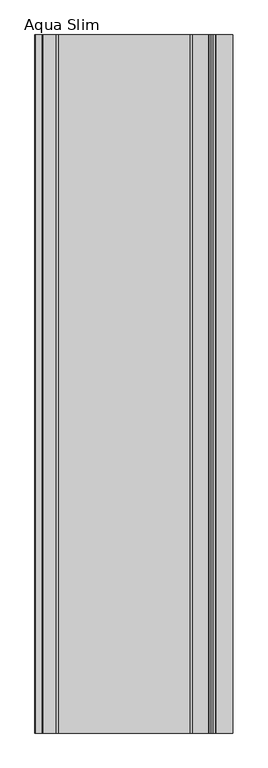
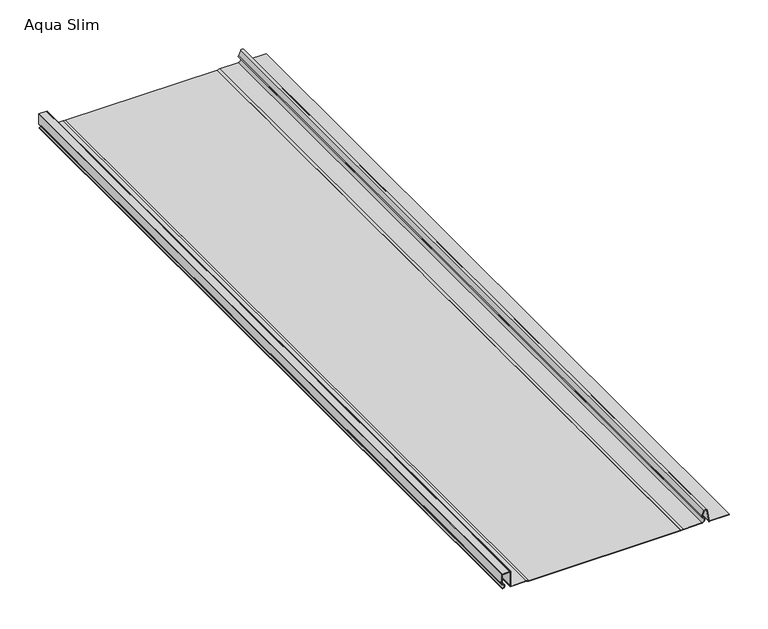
"""IFC4 building model written with IfcOpenShell, lengths in millimetres: proxy geometry, AQUAPLAST - Panel Dachowy i Elewacyjny Aqua Slim : Aqua Slim."""

from ifc_helpers import new_model, si_unit, point, frame, frame_2d, origin, place, context, project, spatial, polyline, circle_curve, trimmed, segment, composite_curve, outline, extrude, source, transform, mapped, element, save


def aqua_slim_ea71b765(model_context):
    return source(origin(), model_context, "Body", "SweptSolid", [
        extrude(outline(composite_curve([segment(polyline([(50.8, 168.4), (50.8, 138.958412)]), True, "CONTINUOUS"), segment(trimmed(circle_curve(frame_2d((51.4640676, 138.958412)), 0.6640676), [point((50.8, 138.958412))], [point((51.3501315, 138.3041916))], True, "CARTESIAN"), True, "CONTINUOUS"), segment(polyline([(51.3501315, 138.3041916), (68.7653554, 135.2712349)]), True, "CONTINUOUS"), segment(trimmed(circle_curve(frame_2d((68.1818617, 132.6281389)), 2.7067363), [point((68.7653554, 135.2712349))], [point((69.5352298, 130.2840366))], False, "CARTESIAN"), True, "CONTINUOUS"), segment(polyline([(69.5352298, 130.2840366), (62.1941629, 127.3237764)]), True, "CONTINUOUS"), segment(trimmed(circle_curve(frame_2d((61.2676679, 129.6213657)), 2.4773594), [point((62.1941629, 127.3237764))], [point((59.0024093, 128.6184133))], False, "CARTESIAN"), True, "CONTINUOUS"), segment(trimmed(circle_curve(frame_2d((55.4667311, 127.0529775)), 3.8667311), [point((59.0024093, 128.6184133))], [point((51.6, 127.0529775))], True, "CARTESIAN"), True, "CONTINUOUS"), segment(polyline([(51.6, 127.0529775), (51.6, 99.2000503), (50.8, 95.7000503), (50.0, 95.7000503), (50.8, 99.2000503), (50.8, 126.8938021)]), True, "CONTINUOUS"), segment(trimmed(circle_curve(frame_2d((55.5014361, 126.8938021)), 4.7014361), [point((50.8, 126.8938021))], [point((59.7513874, 128.9041293))], False, "CARTESIAN"), True, "CONTINUOUS"), segment(trimmed(circle_curve(frame_2d((61.2676679, 129.6213657)), 1.6773594), [point((59.7513874, 128.9041293))], [point((61.8934079, 128.0650932))], True, "CARTESIAN"), True, "CONTINUOUS"), segment(polyline([(61.8934079, 128.0650932), (69.1352298, 130.9768569)]), True, "CONTINUOUS"), segment(trimmed(circle_curve(frame_2d((68.1818617, 132.6281389)), 1.9067363), [point((69.1352298, 130.9768569))], [point((68.4803326, 134.5113697))], True, "CARTESIAN"), True, "CONTINUOUS"), segment(polyline([(68.4803326, 134.5113697), (50.6241817, 137.3413691)]), True, "CONTINUOUS"), segment(trimmed(circle_curve(frame_2d((50.7400208, 138.0722673)), 0.7400208), [point((50.6241817, 137.3413691))], [point((50.0, 138.0722673))], False, "CARTESIAN"), True, "CONTINUOUS"), segment(polyline([(50.0, 138.0722673), (50.0, 168.4), (50.8, 168.4)]), True, "CONTINUOUS")], self_intersect=False)), frame((0.0, -1200.0, 0.0), z_axis=(0.0, 1.0, 0.0), x_axis=(0.0, 0.0, 1.0)), (0.0, 0.0, 1.0), 1200.0),
        extrude(outline(composite_curve([segment(polyline([(51.6, -135.0), (51.6, -158.1)]), True, "CONTINUOUS"), segment(trimmed(circle_curve(frame_2d((52.1, -158.1)), 0.5), [point((51.6, -158.1))], [point((52.1, -158.6))], True, "CARTESIAN"), True, "CONTINUOUS"), segment(polyline([(52.1, -158.6), (74.5, -158.6)]), True, "CONTINUOUS"), segment(trimmed(circle_curve(frame_2d((74.5, -159.1)), 0.5), [point((74.5, -158.6))], [point((75.0, -159.1))], False, "CARTESIAN"), True, "CONTINUOUS"), segment(polyline([(75.0, -159.1), (75.0, -171.1)]), True, "CONTINUOUS"), segment(trimmed(circle_curve(frame_2d((74.5, -171.1)), 0.5), [point((75.0, -171.1))], [point((74.5, -171.6))], False, "CARTESIAN"), True, "CONTINUOUS"), segment(polyline([(74.5, -171.6), (58.8039223, -171.6)]), True, "CONTINUOUS"), segment(trimmed(circle_curve(frame_2d((58.8039223, -170.9250457)), 0.6749543), [point((58.8039223, -171.6))], [point((58.1289934, -170.9191923))], False, "CARTESIAN"), True, "CONTINUOUS"), segment(trimmed(circle_curve(frame_2d((55.3847863, -170.9191923)), 2.7442071), [point((58.1289934, -170.9191923))], [point((52.6405793, -170.9191923))], True, "CARTESIAN"), True, "CONTINUOUS"), segment(polyline([(52.6405793, -170.9191923), (51.8403383, -170.9191923)]), True, "CONTINUOUS"), segment(trimmed(circle_curve(frame_2d((55.4137846, -170.9191923)), 3.5734462), [point((51.8403383, -170.9191923))], [point((58.9478642, -170.3902321))], False, "CARTESIAN"), True, "CONTINUOUS"), segment(trimmed(circle_curve(frame_2d((59.7850119, -169.9539484)), 0.9440125), [point((58.9478642, -170.3902321))], [point((59.7850119, -170.897961))], True, "CARTESIAN"), True, "CONTINUOUS"), segment(polyline([(59.7850119, -170.897961), (73.6993591, -170.897961)]), True, "CONTINUOUS"), segment(trimmed(circle_curve(frame_2d((73.6993591, -170.3966773)), 0.5012837), [point((73.6993591, -170.897961))], [point((74.2006428, -170.3966773))], True, "CARTESIAN"), True, "CONTINUOUS"), segment(polyline([(74.2006428, -170.3966773), (74.2006428, -159.9001579)]), True, "CONTINUOUS"), segment(trimmed(circle_curve(frame_2d((73.7003195, -159.9001579)), 0.5003233), [point((74.2006428, -159.9001579))], [point((73.7003195, -159.3998346))], True, "CARTESIAN"), True, "CONTINUOUS"), segment(polyline([(73.7003195, -159.3998346), (51.2999699, -159.3998346)]), True, "CONTINUOUS"), segment(trimmed(circle_curve(frame_2d((51.2999699, -158.8999248)), 0.4999098), [point((51.2999699, -159.3998346))], [point((50.8000601, -158.8999248))], False, "CARTESIAN"), True, "CONTINUOUS"), segment(polyline([(50.8000601, -158.8999248), (50.8000601, -135.0), (50.0, -131.5), (50.8, -131.5), (51.6, -135.0)]), True, "CONTINUOUS")], self_intersect=False)), frame((0.0, -1200.0, 0.0), z_axis=(0.0, 1.0, 0.0), x_axis=(0.0, 0.0, 1.0)), (0.0, 0.0, 1.0), 1200.0),
        extrude(outline(polyline([(-131.5, -1200.0), (-131.5, 0.0), (95.7000503, 0.0), (95.7000503, -1200.0), (-131.5, -1200.0)])), frame((0.0, 0.0, 50.0), z_axis=(0.0, 0.0, 1.0), x_axis=(1.0, 0.0, 0.0)), (0.0, 0.0, 1.0), 0.8),
    ])


if __name__ == "__main__":
    model = new_model("IFC4")
    model_context = context("Model", 3, world=origin())
    ifc_project = project(units=[si_unit("LENGTHUNIT", "METRE", prefix="MILLI")], contexts=[model_context])
    site = spatial("IfcSite", under=ifc_project)
    building = spatial("IfcBuilding", under=site)
    placement = place(None, origin())
    aqua_slim_shape = aqua_slim_ea71b765(model_context)
    element("IfcBuildingElementProxy", 1, Name="AQUAPLAST - Panel Dachowy i Elewacyjny Aqua Slim : Aqua Slim", ObjectType="AQUAPLAST - Panel Dachowy i Elewacyjny Aqua Slim : Aqua Slim", at=placement, inside=building, context=model_context, shape_type="MappedRepresentation", body=[
        mapped(aqua_slim_shape, transform((0.0, 0.0, 0.0), x_axis=(1.0, 0.0, 0.0), y_axis=(0.0, 1.0, 0.0), z_axis=(0.0, 0.0, 1.0))),
    ])
    save(model, "model.ifc")
